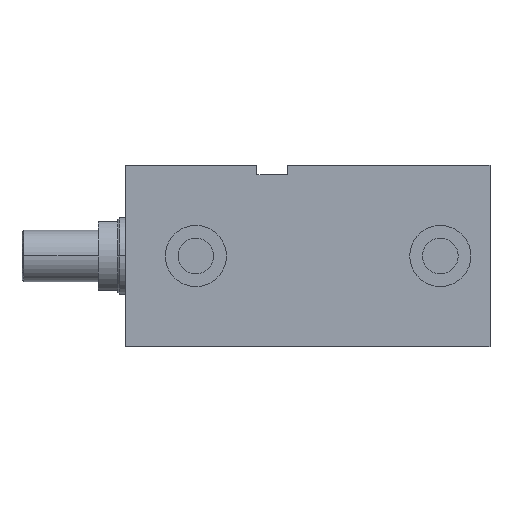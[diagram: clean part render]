
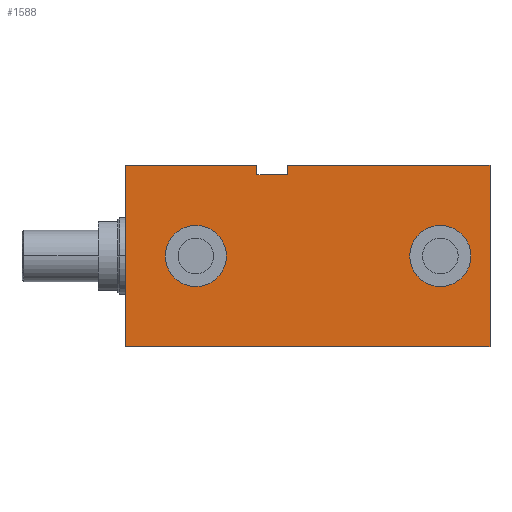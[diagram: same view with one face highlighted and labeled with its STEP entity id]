
A CAD part, left-side view. The second image highlights one B-rep face of the part: STEP entity #1588.
In plain terms, the highlighted planar face has unit normal (-1, 0, 0).
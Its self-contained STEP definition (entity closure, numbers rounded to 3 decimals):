
#12 = EDGE_CURVE ( 'NONE', #2309, #2455, #2110, .T. ) ;
#17 = CARTESIAN_POINT ( 'NONE',  ( -62.5, 191., 47.5 ) ) ;
#52 = EDGE_CURVE ( 'NONE', #2430, #921, #215, .T. ) ;
#53 = LINE ( 'NONE', #784, #686 ) ;
#70 = EDGE_CURVE ( 'NONE', #2801, #2455, #53, .T. ) ;
#98 = LINE ( 'NONE', #2361, #1265 ) ;
#112 = EDGE_CURVE ( 'NONE', #1899, #1039, #1151, .T. ) ;
#179 = VECTOR ( 'NONE', #1316, 1000. ) ;
#189 = DIRECTION ( 'NONE',  ( 0., 0., 1. ) ) ;
#193 = CARTESIAN_POINT ( 'NONE',  ( -62.5, 26., 0. ) ) ;
#215 = CIRCLE ( 'NONE', #1998, 16. ) ;
#236 = DIRECTION ( 'NONE',  ( -1., 0., 0. ) ) ;
#283 = CARTESIAN_POINT ( 'NONE',  ( -62.5, 106., 47.5 ) ) ;
#301 = CIRCLE ( 'NONE', #1383, 16. ) ;
#338 = EDGE_CURVE ( 'NONE', #973, #2187, #98, .T. ) ;
#355 = CARTESIAN_POINT ( 'NONE',  ( -62.5, 26., -16. ) ) ;
#430 = ORIENTED_EDGE ( 'NONE', *, *, #1072, .F. ) ;
#449 = VECTOR ( 'NONE', #923, 1000. ) ;
#476 = FACE_OUTER_BOUND ( 'NONE', #1416, .T. ) ;
#501 = ORIENTED_EDGE ( 'NONE', *, *, #338, .F. ) ;
#560 = AXIS2_PLACEMENT_3D ( 'NONE', #2159, #1810, #1138 ) ;
#566 = ORIENTED_EDGE ( 'NONE', *, *, #1129, .F. ) ;
#686 = VECTOR ( 'NONE', #1036, 1000. ) ;
#716 = DIRECTION ( 'NONE',  ( 0., 0., 1. ) ) ;
#738 = EDGE_LOOP ( 'NONE', ( #2378, #2834 ) ) ;
#744 = DIRECTION ( 'NONE',  ( -1., 0., 0. ) ) ;
#759 = CARTESIAN_POINT ( 'NONE',  ( -62.5, 154., 0. ) ) ;
#773 = VERTEX_POINT ( 'NONE', #1487 ) ;
#784 = CARTESIAN_POINT ( 'NONE',  ( -62.5, 91., 47.5 ) ) ;
#851 = DIRECTION ( 'NONE',  ( 0., 0., 1. ) ) ;
#852 = DIRECTION ( 'NONE',  ( -1., 0., 0. ) ) ;
#856 = EDGE_CURVE ( 'NONE', #2070, #2801, #2699, .T. ) ;
#858 = CARTESIAN_POINT ( 'NONE',  ( -62.5, 26., 0. ) ) ;
#877 = LINE ( 'NONE', #1646, #951 ) ;
#905 = EDGE_LOOP ( 'NONE', ( #566, #2892 ) ) ;
#910 = DIRECTION ( 'NONE',  ( 0., 0., 1. ) ) ;
#919 = DIRECTION ( 'NONE',  ( -1., 0., 0. ) ) ;
#920 = EDGE_CURVE ( 'NONE', #1641, #2070, #2068, .T. ) ;
#921 = VERTEX_POINT ( 'NONE', #1224 ) ;
#923 = DIRECTION ( 'NONE',  ( 0., -1., 0. ) ) ;
#925 = CARTESIAN_POINT ( 'NONE',  ( -62.5, 0., -47.5 ) ) ;
#951 = VECTOR ( 'NONE', #1665, 1000. ) ;
#954 = CARTESIAN_POINT ( 'NONE',  ( -62.5, 91., 47.5 ) ) ;
#965 = CARTESIAN_POINT ( 'NONE',  ( -62.5, 154., 0. ) ) ;
#973 = VERTEX_POINT ( 'NONE', #1136 ) ;
#1002 = CARTESIAN_POINT ( 'NONE',  ( -62.5, 26., 16. ) ) ;
#1009 = EDGE_CURVE ( 'NONE', #1641, #773, #2522, .T. ) ;
#1036 = DIRECTION ( 'NONE',  ( 0., -1., 0. ) ) ;
#1039 = VERTEX_POINT ( 'NONE', #1002 ) ;
#1048 = LINE ( 'NONE', #954, #449 ) ;
#1072 = EDGE_CURVE ( 'NONE', #2187, #773, #1048, .T. ) ;
#1086 = DIRECTION ( 'NONE',  ( 0., 0., 1. ) ) ;
#1095 = ORIENTED_EDGE ( 'NONE', *, *, #2049, .T. ) ;
#1096 = CARTESIAN_POINT ( 'NONE',  ( -62.5, 122., 42.5 ) ) ;
#1129 = EDGE_CURVE ( 'NONE', #1039, #1899, #2266, .T. ) ;
#1136 = CARTESIAN_POINT ( 'NONE',  ( -62.5, 191., -47.5 ) ) ;
#1138 = DIRECTION ( 'NONE',  ( 0., 0., -1. ) ) ;
#1151 = CIRCLE ( 'NONE', #2595, 16. ) ;
#1163 = CARTESIAN_POINT ( 'NONE',  ( -62.5, 0., 47.5 ) ) ;
#1168 = EDGE_CURVE ( 'NONE', #921, #2430, #301, .T. ) ;
#1189 = VECTOR ( 'NONE', #1086, 1000. ) ;
#1219 = CARTESIAN_POINT ( 'NONE',  ( -62.5, 154., -16. ) ) ;
#1224 = CARTESIAN_POINT ( 'NONE',  ( -62.5, 154., 16. ) ) ;
#1230 = AXIS2_PLACEMENT_3D ( 'NONE', #858, #852, #851 ) ;
#1265 = VECTOR ( 'NONE', #2360, 1000. ) ;
#1274 = CARTESIAN_POINT ( 'NONE',  ( -62.5, 122., 42.5 ) ) ;
#1302 = DIRECTION ( 'NONE',  ( 0., 0., 1. ) ) ;
#1309 = CARTESIAN_POINT ( 'NONE',  ( -62.5, 106., 42.5 ) ) ;
#1310 = ORIENTED_EDGE ( 'NONE', *, *, #856, .F. ) ;
#1316 = DIRECTION ( 'NONE',  ( 0., -1., 0. ) ) ;
#1377 = DIRECTION ( 'NONE',  ( 0., 0., 1. ) ) ;
#1378 = CARTESIAN_POINT ( 'NONE',  ( -62.5, 0., -47.5 ) ) ;
#1383 = AXIS2_PLACEMENT_3D ( 'NONE', #759, #744, #716 ) ;
#1406 = VECTOR ( 'NONE', #1302, 1000. ) ;
#1416 = EDGE_LOOP ( 'NONE', ( #2569, #1310, #2893, #2381, #430, #501, #1095, #1803 ) ) ;
#1487 = CARTESIAN_POINT ( 'NONE',  ( -62.5, 122., 47.5 ) ) ;
#1588 = ADVANCED_FACE ( 'NONE', ( #476, #2358, #2816 ), #1851, .F. ) ;
#1641 = VERTEX_POINT ( 'NONE', #2444 ) ;
#1646 = CARTESIAN_POINT ( 'NONE',  ( -62.5, 91., -47.5 ) ) ;
#1665 = DIRECTION ( 'NONE',  ( 0., -1., 0. ) ) ;
#1670 = CARTESIAN_POINT ( 'NONE',  ( -62.5, 106., 42.5 ) ) ;
#1803 = ORIENTED_EDGE ( 'NONE', *, *, #12, .T. ) ;
#1810 = DIRECTION ( 'NONE',  ( 1., 0., 0. ) ) ;
#1851 = PLANE ( 'NONE',  #560 ) ;
#1899 = VERTEX_POINT ( 'NONE', #355 ) ;
#1998 = AXIS2_PLACEMENT_3D ( 'NONE', #965, #919, #910 ) ;
#2049 = EDGE_CURVE ( 'NONE', #973, #2309, #877, .T. ) ;
#2068 = LINE ( 'NONE', #1274, #179 ) ;
#2070 = VERTEX_POINT ( 'NONE', #1670 ) ;
#2110 = LINE ( 'NONE', #1378, #2607 ) ;
#2159 = CARTESIAN_POINT ( 'NONE',  ( -62.5, 91., -47.5 ) ) ;
#2187 = VERTEX_POINT ( 'NONE', #17 ) ;
#2266 = CIRCLE ( 'NONE', #1230, 16. ) ;
#2309 = VERTEX_POINT ( 'NONE', #925 ) ;
#2358 = FACE_BOUND ( 'NONE', #905, .T. ) ;
#2360 = DIRECTION ( 'NONE',  ( 0., 0., 1. ) ) ;
#2361 = CARTESIAN_POINT ( 'NONE',  ( -62.5, 191., -47.5 ) ) ;
#2378 = ORIENTED_EDGE ( 'NONE', *, *, #1168, .F. ) ;
#2381 = ORIENTED_EDGE ( 'NONE', *, *, #1009, .T. ) ;
#2430 = VERTEX_POINT ( 'NONE', #1219 ) ;
#2444 = CARTESIAN_POINT ( 'NONE',  ( -62.5, 122., 42.5 ) ) ;
#2455 = VERTEX_POINT ( 'NONE', #1163 ) ;
#2522 = LINE ( 'NONE', #1096, #1189 ) ;
#2569 = ORIENTED_EDGE ( 'NONE', *, *, #70, .F. ) ;
#2595 = AXIS2_PLACEMENT_3D ( 'NONE', #193, #236, #189 ) ;
#2607 = VECTOR ( 'NONE', #1377, 1000. ) ;
#2699 = LINE ( 'NONE', #1309, #1406 ) ;
#2801 = VERTEX_POINT ( 'NONE', #283 ) ;
#2816 = FACE_BOUND ( 'NONE', #738, .T. ) ;
#2834 = ORIENTED_EDGE ( 'NONE', *, *, #52, .F. ) ;
#2892 = ORIENTED_EDGE ( 'NONE', *, *, #112, .F. ) ;
#2893 = ORIENTED_EDGE ( 'NONE', *, *, #920, .F. ) ;
